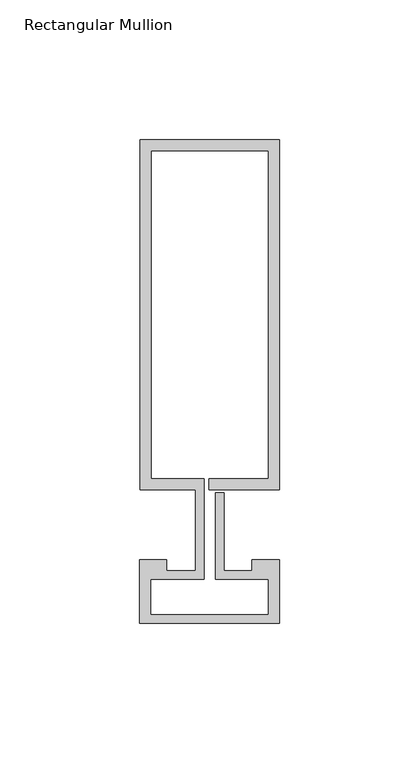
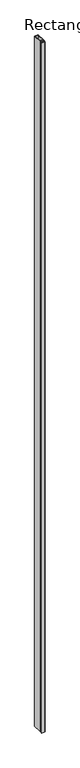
"""IFC4 building model written with IfcOpenShell, lengths in millimetres: member geometry, Rectangular Mullion : Reynaers_CW-50_Mullion-Transom_Vertical_125.5mm_Facecap-02C."""

from ifc_helpers import new_model, si_unit, frame, origin, place, context, project, spatial, polyline, outline, extrude, source, transform, mapped, element, save


def rectangular_mullion_7648b30d(model_context):
    return source(origin(), model_context, "Body", "SweptSolid", [
        extrude(outline(polyline([(-24.8004059, 138.0), (25.1995941, 138.0), (25.1995941, 12.5), (0.0, 12.5), (0.0, 16.5), (21.1995941, 16.5), (21.1995941, 134.0), (-20.8004059, 134.0), (-20.8004059, 16.5), (-1.9004059, 16.5), (-1.9004059, -19.5), (-20.994845, -19.5), (-20.994845, -32.2191338), (21.1995941, -32.2191338), (21.1995941, -19.5), (2.2995941, -19.5), (2.2995941, 11.5), (5.2995941, 11.5), (5.2995941, -16.5), (15.2996495, -16.5), (15.2996495, -12.5), (25.1995941, -12.5), (25.1995941, -35.3), (-24.994845, -35.3), (-24.994845, -12.5), (-15.2996495, -12.5), (-15.2996495, -16.5), (-4.9004059, -16.5), (-4.9004059, 12.5), (-24.8004059, 12.5), (-24.8004059, 138.0)])), frame((0.0, 0.0, -10400.0), z_axis=(0.0, 0.0, 1.0), x_axis=(1.0, 0.0, 0.0)), (0.0, 0.0, 1.0), 10400.0),
    ])


if __name__ == "__main__":
    model = new_model("IFC4")
    model_context = context("Model", 3, world=origin())
    ifc_project = project(units=[si_unit("LENGTHUNIT", "METRE", prefix="MILLI")], contexts=[model_context])
    site = spatial("IfcSite", under=ifc_project)
    building = spatial("IfcBuilding", under=site)
    placement = place(None, origin())
    rectangular_mullion_shape = rectangular_mullion_7648b30d(model_context)
    element("IfcMember", 1, ObjectType="Rectangular Mullion : Reynaers_CW-50_Mullion-Transom_Vertical_125.5mm_Facecap-02C", at=placement, inside=building, context=model_context, shape_type="MappedRepresentation", body=[
        mapped(rectangular_mullion_shape, transform((0.0, 0.0, 0.0), x_axis=(1.0, 0.0, 0.0), y_axis=(0.0, 1.0, 0.0), z_axis=(0.0, 0.0, 1.0))),
    ])
    save(model, "model.ifc")
